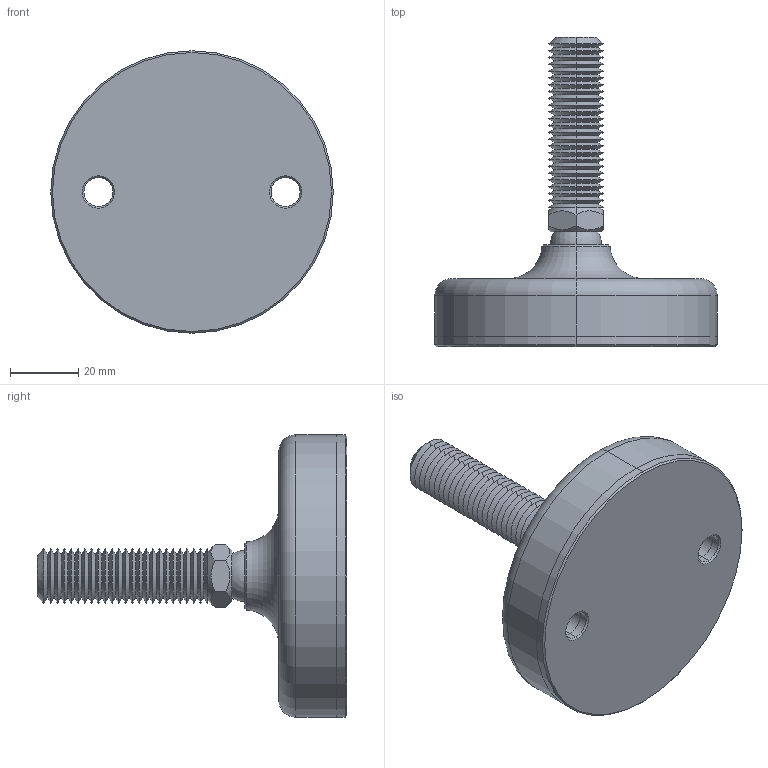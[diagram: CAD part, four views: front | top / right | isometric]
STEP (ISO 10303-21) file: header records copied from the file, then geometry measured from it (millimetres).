
FILE_DESCRIPTION (( 'STEP AP203' ), '1' );
FILE_NAME ('34724.W1600.step', '2019-11-28T22:11:10', ( '' ), ( '' ), 'SwSTEP 2.0', 'SolidWorks 2017', '' );
FILE_SCHEMA (( 'CONFIG_CONTROL_DESIGN' ));
Length unit declared in the file: millimetre
Products named in the file (4): Part2_34724.W1600; Part3_34724.W1600; Part1_34724.W1600; 34724.W1600
Assembly tree (3 placements, depth 2):
  34724.W1600
    Part1_34724.W1600
    Part2_34724.W1600
    Part3_34724.W1600
Bounding box: 83 x 91 x 83 mm (x, y, z)
Volume: 119469.7 mm3; surface area: 32949.5 mm2
Topology: 3 solids, 3 shells, 148 faces, 311 edges, 169 vertices
Faces by surface type: cone 114, plane 14, cylinder 12, sphere 4, torus 4
Entity records: 4362 total; most frequent: CARTESIAN_POINT 768, DIRECTION 756, ORIENTED_EDGE 604, AXIS2_PLACEMENT_3D 312, EDGE_CURVE 302, VERTEX_POINT 164, EDGE_LOOP 160, CIRCLE 158
